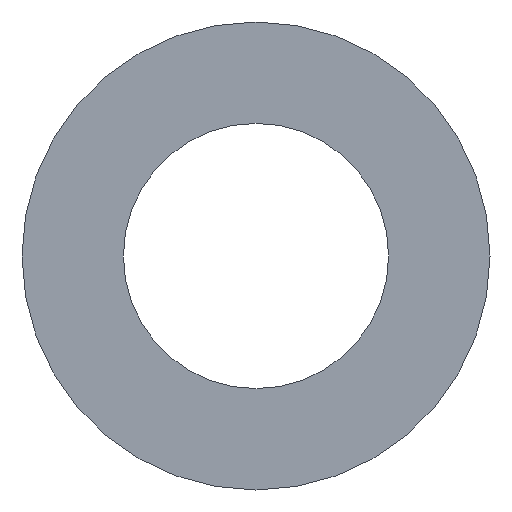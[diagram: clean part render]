
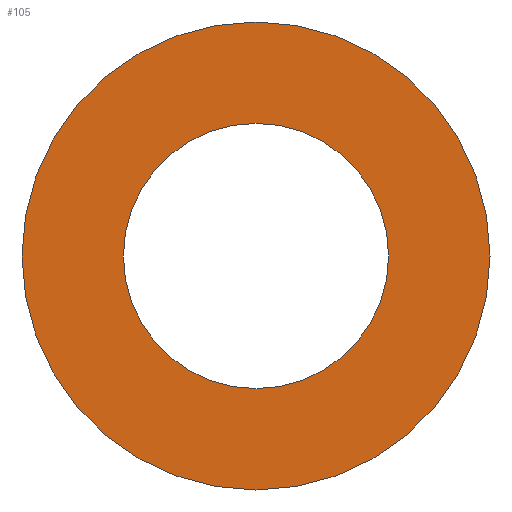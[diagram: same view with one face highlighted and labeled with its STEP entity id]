
A CAD part, front view. The second image highlights one B-rep face of the part: STEP entity #105.
In plain terms, the highlighted planar face has unit normal (0, -1, 0).
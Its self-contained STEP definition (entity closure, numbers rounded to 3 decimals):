
#21 = EDGE_CURVE('',#22,#22,#24,.T.);
#22 = VERTEX_POINT('',#23);
#23 = CARTESIAN_POINT('',(3.,-0.25,0.));
#24 = SURFACE_CURVE('',#25,(#30,#42),.PCURVE_S1.);
#25 = CIRCLE('',#26,3.);
#26 = AXIS2_PLACEMENT_3D('',#27,#28,#29);
#27 = CARTESIAN_POINT('',(0.,-0.25,0.));
#28 = DIRECTION('',(0.,-1.,0.));
#29 = DIRECTION('',(1.,0.,0.));
#30 = PCURVE('',#31,#36);
#31 = CYLINDRICAL_SURFACE('',#32,3.);
#32 = AXIS2_PLACEMENT_3D('',#33,#34,#35);
#33 = CARTESIAN_POINT('',(0.,0.25,0.));
#34 = DIRECTION('',(0.,-1.,0.));
#35 = DIRECTION('',(1.,0.,0.));
#36 = DEFINITIONAL_REPRESENTATION('',(#37),#41);
#37 = LINE('',#38,#39);
#38 = CARTESIAN_POINT('',(0.,0.5));
#39 = VECTOR('',#40,1.);
#40 = DIRECTION('',(1.,0.));
#41 = ( GEOMETRIC_REPRESENTATION_CONTEXT(2) 
PARAMETRIC_REPRESENTATION_CONTEXT() REPRESENTATION_CONTEXT('2D SPACE',''
  ) );
#42 = PCURVE('',#43,#48);
#43 = PLANE('',#44);
#44 = AXIS2_PLACEMENT_3D('',#45,#46,#47);
#45 = CARTESIAN_POINT('',(0.,-0.25,0.));
#46 = DIRECTION('',(0.,-1.,0.));
#47 = DIRECTION('',(1.,0.,0.));
#48 = DEFINITIONAL_REPRESENTATION('',(#49),#53);
#49 = CIRCLE('',#50,3.);
#50 = AXIS2_PLACEMENT_2D('',#51,#52);
#51 = CARTESIAN_POINT('',(0.,0.));
#52 = DIRECTION('',(1.,0.));
#53 = ( GEOMETRIC_REPRESENTATION_CONTEXT(2) 
PARAMETRIC_REPRESENTATION_CONTEXT() REPRESENTATION_CONTEXT('2D SPACE',''
  ) );
#105 = ADVANCED_FACE('',(#106,#109),#43,.T.);
#106 = FACE_BOUND('',#107,.T.);
#107 = EDGE_LOOP('',(#108));
#108 = ORIENTED_EDGE('',*,*,#21,.T.);
#109 = FACE_BOUND('',#110,.T.);
#110 = EDGE_LOOP('',(#111));
#111 = ORIENTED_EDGE('',*,*,#112,.F.);
#112 = EDGE_CURVE('',#113,#113,#115,.T.);
#113 = VERTEX_POINT('',#114);
#114 = CARTESIAN_POINT('',(1.7,-0.25,0.));
#115 = SURFACE_CURVE('',#116,(#121,#128),.PCURVE_S1.);
#116 = CIRCLE('',#117,1.7);
#117 = AXIS2_PLACEMENT_3D('',#118,#119,#120);
#118 = CARTESIAN_POINT('',(0.,-0.25,0.));
#119 = DIRECTION('',(0.,-1.,0.));
#120 = DIRECTION('',(1.,0.,0.));
#121 = PCURVE('',#43,#122);
#122 = DEFINITIONAL_REPRESENTATION('',(#123),#127);
#123 = CIRCLE('',#124,1.7);
#124 = AXIS2_PLACEMENT_2D('',#125,#126);
#125 = CARTESIAN_POINT('',(0.,0.));
#126 = DIRECTION('',(1.,0.));
#127 = ( GEOMETRIC_REPRESENTATION_CONTEXT(2) 
PARAMETRIC_REPRESENTATION_CONTEXT() REPRESENTATION_CONTEXT('2D SPACE',''
  ) );
#128 = PCURVE('',#129,#134);
#129 = CYLINDRICAL_SURFACE('',#130,1.7);
#130 = AXIS2_PLACEMENT_3D('',#131,#132,#133);
#131 = CARTESIAN_POINT('',(0.,1.,0.));
#132 = DIRECTION('',(0.,-1.,0.));
#133 = DIRECTION('',(1.,0.,0.));
#134 = DEFINITIONAL_REPRESENTATION('',(#135),#139);
#135 = LINE('',#136,#137);
#136 = CARTESIAN_POINT('',(0.,1.25));
#137 = VECTOR('',#138,1.);
#138 = DIRECTION('',(1.,0.));
#139 = ( GEOMETRIC_REPRESENTATION_CONTEXT(2) 
PARAMETRIC_REPRESENTATION_CONTEXT() REPRESENTATION_CONTEXT('2D SPACE',''
  ) );
